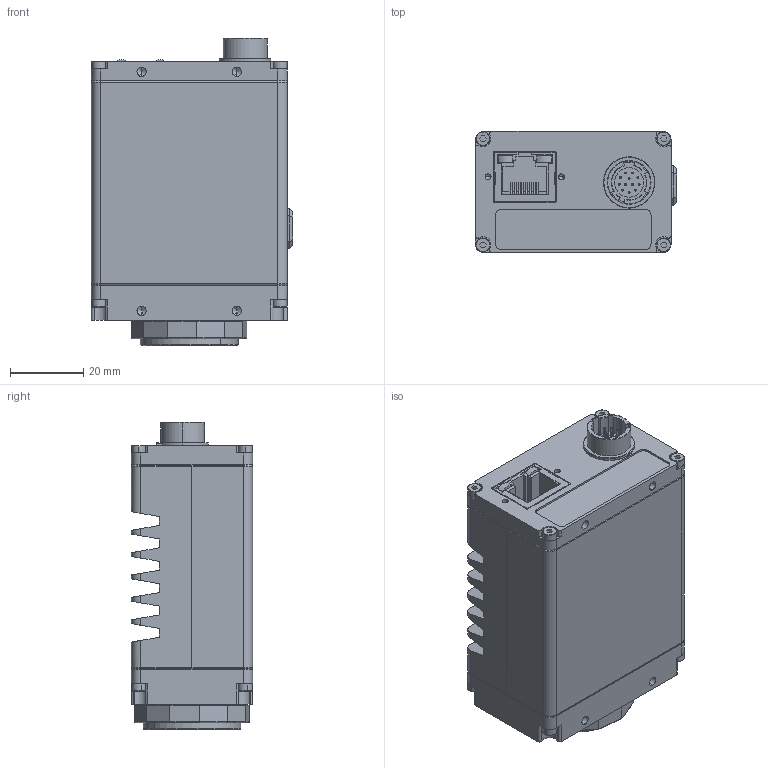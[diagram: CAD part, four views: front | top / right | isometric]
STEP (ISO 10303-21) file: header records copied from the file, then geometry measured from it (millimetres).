
FILE_DESCRIPTION (( 'STEP AP214' ), '1' );
FILE_NAME ('GT1930.STEP', '2016-03-03T23:58:34', ( '' ), ( '' ), 'SwSTEP 2.0', 'SolidWorks 2015', '' );
FILE_SCHEMA (( 'AUTOMOTIVE_DESIGN' ));
Length unit declared in the file: millimetre
Products named in the file (4): GT1930; GT1930 C-MOUNT RING; GT BODY ASSY SHORT - defeatured_GT1930 C-MOUNT; C-MOUNT LOCKING RING
Assembly tree (3 placements, depth 2):
  GT1930
    GT BODY ASSY SHORT - defeatured_GT1930 C-MOUNT
    GT1930 C-MOUNT RING
    C-MOUNT LOCKING RING
Bounding box: 54.84 x 33.02 x 83.71 mm (x, y, z)
Volume: 99870.3 mm3; surface area: 35188.2 mm2
Topology: 3 solids, 15 shells, 1313 faces, 3385 edges, 2099 vertices
Faces by surface type: plane 707, cylinder 333, cone 214, torus 35, sphere 24
Entity records: 48140 total; most frequent: CARTESIAN_POINT 7215, DIRECTION 6731, ORIENTED_EDGE 6586, EDGE_CURVE 3293, VECTOR 2349, LINE 2349, AXIS2_PLACEMENT_3D 2191, VERTEX_POINT 2075
